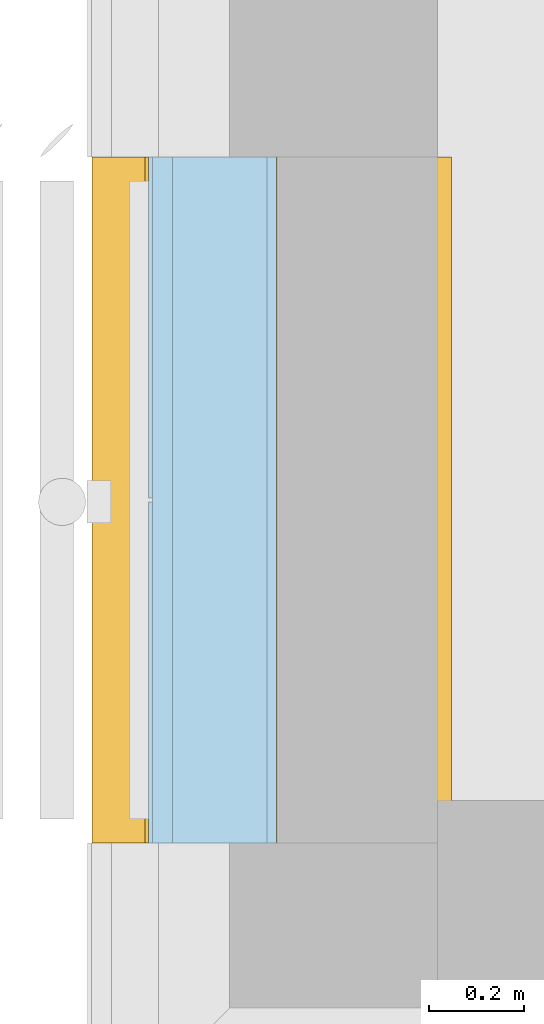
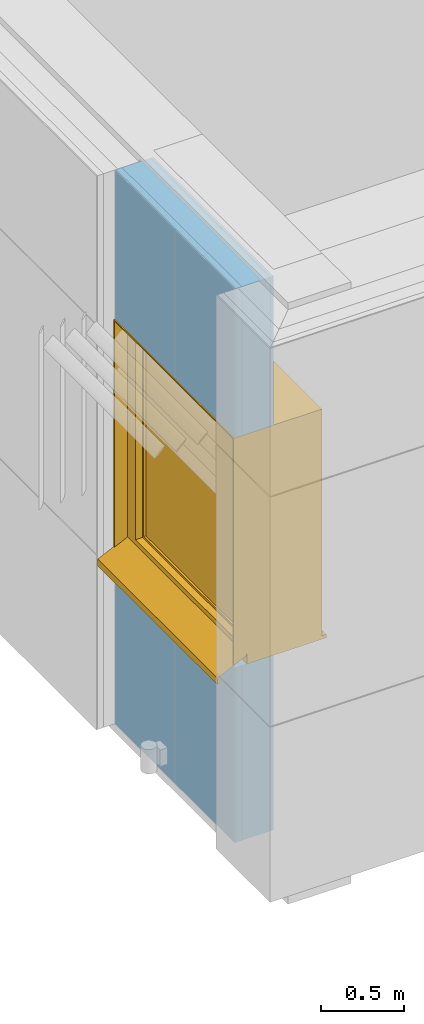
# One storey, part 117 of 418: 1 window, 2 openings, 1 element without a shape of its own, plus 4 elements that do not belong to this part.
"""IFC2X3 building model written with IfcOpenShell, lengths in millimetres."""

from ifc_helpers import new_model, entity, si_unit, converted_unit, derived_unit, money_unit, direction, frame, origin_with_axes, origin_2d_with_axis, place, context, subcontext, project, spatial, polyline, rectangle, outline, extrude, open_shell, faceted_brep, surface_model, material, type_object, element, fill, aggregate, save


model = new_model("IFC2X3")

# Units and contexts
model_context = context("Model", 3, precision=0.01, world=origin_with_axes(), true_north=direction((0.0, 1.0)))
body_context = subcontext(model_context, "Body", "Model", "MODEL_VIEW")
ifc_project = project(units=[si_unit("LENGTHUNIT", "METRE", prefix="MILLI"), si_unit("AREAUNIT", "SQUARE_METRE"), si_unit("VOLUMEUNIT", "CUBIC_METRE"), converted_unit("PLANEANGLEUNIT", "DEGREE", entity("IfcPlaneAngleMeasure", 0.0174532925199), si_unit("PLANEANGLEUNIT", "RADIAN"), dimensions=[0, 0, 0, 0, 0, 0, 0]), si_unit("SOLIDANGLEUNIT", "STERADIAN"), money_unit("EUR"), converted_unit("TIMEUNIT", "Year", entity("IfcTimeMeasure", 31556926.0), si_unit("TIMEUNIT", "SECOND"), dimensions=[0, 0, 1, 0, 0, 0, 0]), si_unit("MASSUNIT", "GRAM", prefix="KILO"), si_unit("THERMODYNAMICTEMPERATUREUNIT", "DEGREE_CELSIUS"), si_unit("LUMINOUSINTENSITYUNIT", "LUMEN"), si_unit("ENERGYUNIT", "JOULE", prefix="MEGA"), derived_unit("THERMALCONDUCTANCEUNIT", [(si_unit("POWERUNIT", "WATT"), 1), (si_unit("LENGTHUNIT", "METRE"), -1), (si_unit("THERMODYNAMICTEMPERATUREUNIT", "KELVIN"), -1)]), derived_unit("SPECIFICHEATCAPACITYUNIT", [(si_unit("ENERGYUNIT", "JOULE"), 1), (si_unit("MASSUNIT", "GRAM", prefix="KILO"), -1), (si_unit("THERMODYNAMICTEMPERATUREUNIT", "KELVIN"), -1)]), derived_unit("MASSDENSITYUNIT", [(si_unit("MASSUNIT", "GRAM", prefix="KILO"), 1), (si_unit("VOLUMEUNIT", "CUBIC_METRE"), -1)])], contexts=[model_context])

# Site, building, storey
site_placement = place(None, origin_with_axes())
site = spatial("IfcSite", under=ifc_project, at=site_placement, Name="Paldiski mnt 245/1, Tallinn, Harjumaa", CompositionType="COMPLEX")
building_placement = place(site_placement, origin_with_axes())
building = spatial("IfcBuilding", under=site, at=building_placement, Name="RKAS Hoone üldnimetus (kasutust iseloomustav) -> IFC Project Manager -> SOLIBRI", CompositionType="ELEMENT")
storey_placement = place(building_placement, origin_with_axes())
storey = spatial("IfcBuildingStorey", under=building, at=storey_placement, Name="Esimene korrus", CompositionType="ELEMENT", Elevation=0.0)

# Window
window_style = type_object("IfcWindowStyle", Name="Window 23", ConstructionType="NOTDEFINED", OperationType="SINGLE_PANEL", ParameterTakesPrecedence=False, Sizeable=False)
wall_placement = place(storey_placement, frame((-59610.9999232, 7590.01138104, 0.0), z_axis=(0.0, 0.0, 1.0), x_axis=(0.0, -1.0, 0.0)))
opening_1_placement = place(wall_placement, frame((725.0, 0.0, 1290.0), z_axis=(0.0, 0.0, 1.0), x_axis=(1.0, 0.0, 0.0)))
window_placement = place(opening_1_placement, frame((-725.0, 0.0, 0.0), z_axis=(0.0, 0.0, 1.0), x_axis=(1.0, 0.0, 0.0)))
window = element("IfcWindow", 1, at=window_placement, inside=storey, type_object=window_style, Name="A-06", ObjectType="WINDOW", OverallHeight=1700.0, OverallWidth=1450.0, context=body_context, shape_type="SurfaceModel", body=[
    surface_model("IfcShellBasedSurfaceModel", [(1450.0, -186.0, 75.0), (0.0, -186.0, 75.0), (0.0, -186.0, 65.0), (1450.0, -186.0, 65.0), (0.0, -390.0, -31.4705882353), (1450.0, -390.0, -31.4705882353), (0.0, -390.0, -81.4705882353), (1450.0, -390.0, -81.4705882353), (0.0, -370.0, -61.4705882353), (1450.0, -370.0, -61.4705882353)], [open_shell([[[0, 1, 2, 3]], [[3, 2, 4, 5]], [[5, 4, 6, 7]], [[7, 6, 8, 9]]])]),
    faceted_brep([(0.0, -100.0, 0.0), (0.0, -100.0, 25.0), (0.0, 0.0, 25.0), (0.0, 0.0, 0.0), (1450.0, -100.0, 0.0), (1450.0, -100.0, 25.0), (1450.0, 0.0, 25.0), (1450.0, 370.0, 25.0), (0.0, 370.0, 25.0), (0.0, 370.0, 0.0), (1450.0, 370.0, 0.0), (1450.0, 0.0, 0.0)], [[[0, 1, 2, 3]], [[4, 5, 1, 0]], [[1, 5, 6, 7, 8, 2]], [[3, 2, 8, 9]], [[0, 3, 9, 10, 11, 4]], [[11, 6, 5, 4]], [[10, 7, 6, 11]], [[9, 8, 7, 10]]]),
    faceted_brep([(1450.0, -100.0, 25.0), (1450.0, -100.0, 1700.0), (1424.0, -100.0, 1674.0), (1424.0, -100.0, 25.0), (1450.0, 0.0, 25.0), (1450.0, 0.0, 1700.0), (1424.0, 0.0, 1674.0), (1424.0, 0.0, 25.0)], [[[0, 1, 2, 3]], [[4, 5, 1, 0]], [[6, 2, 1, 5]], [[3, 2, 6, 7]], [[7, 4, 0, 3]], [[7, 6, 5, 4]]]),
    faceted_brep([(26.0, -100.0, 25.0), (26.0, -100.0, 1674.0), (0.0, -100.0, 1700.0), (0.0, -100.0, 25.0), (26.0, 0.0, 25.0), (26.0, 0.0, 1674.0), (0.0, 0.0, 1700.0), (0.0, 0.0, 25.0)], [[[0, 1, 2, 3]], [[4, 5, 1, 0]], [[6, 2, 1, 5]], [[3, 2, 6, 7]], [[7, 4, 0, 3]], [[7, 6, 5, 4]]]),
    faceted_brep([(1424.0, -100.0, 1674.0), (26.0, -100.0, 1674.0), (26.0, 0.0, 1674.0), (1424.0, 0.0, 1674.0), (1450.0, -100.0, 1700.0), (0.0, -100.0, 1700.0), (0.0, 0.0, 1700.0), (1450.0, 0.0, 1700.0)], [[[0, 1, 2, 3]], [[0, 4, 5, 1]], [[1, 5, 6, 2]], [[3, 2, 6, 7]], [[4, 0, 3, 7]], [[5, 4, 7, 6]]]),
    faceted_brep([(1450.0, 0.0, 25.0), (1450.0, 0.0, 1700.0), (1424.0, 0.0, 1674.0), (1424.0, 0.0, 25.0), (1450.0, 340.0, 25.0), (1450.0, 340.0, 1700.0), (1424.0, 340.0, 1674.0), (1424.0, 340.0, 25.0)], [[[0, 1, 2, 3]], [[4, 5, 1, 0]], [[5, 6, 2, 1]], [[3, 2, 6, 7]], [[7, 4, 0, 3]], [[7, 6, 5, 4]]]),
    faceted_brep([(26.0, 0.0, 25.0), (26.0, 0.0, 1674.0), (0.0, 0.0, 1700.0), (0.0, 0.0, 25.0), (26.0, 340.0, 25.0), (26.0, 340.0, 1674.0), (0.0, 340.0, 1700.0), (0.0, 340.0, 25.0)], [[[0, 1, 2, 3]], [[4, 5, 1, 0]], [[5, 6, 2, 1]], [[3, 2, 6, 7]], [[7, 4, 0, 3]], [[7, 6, 5, 4]]]),
    faceted_brep([(1450.0, 340.0, 1700.0), (1450.0, 0.0, 1700.0), (1424.0, 0.0, 1674.0), (1424.0, 340.0, 1674.0), (0.0, 340.0, 1700.0), (0.0, 0.0, 1700.0), (26.0, 0.0, 1674.0), (26.0, 340.0, 1674.0)], [[[0, 1, 2, 3]], [[4, 5, 1, 0]], [[1, 5, 6, 2]], [[3, 2, 6, 7]], [[0, 3, 7, 4]], [[7, 6, 5, 4]]]),
    faceted_brep([(1442.0, -270.0, 25.276816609), (1442.0, -270.0, 1692.0), (1442.0, -185.0, 1692.0), (1442.0, -185.0, 75.0), (1442.0, -186.0, 75.0), (1442.0, -186.0, 65.0), (1450.0, -270.0, 25.276816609), (1450.0, -270.0, 1700.0), (1450.0, -185.0, 1700.0), (1450.0, -185.0, 75.0), (1450.0, -186.0, 75.0), (1450.0, -186.0, 65.0)], [[[0, 1, 2, 3, 4, 5]], [[6, 7, 1, 0]], [[8, 2, 1, 7]], [[3, 2, 8, 9]], [[3, 9, 10, 4]], [[4, 10, 11, 5]], [[5, 11, 6, 0]], [[11, 10, 9, 8, 7, 6]]]),
    faceted_brep([(0.0, -270.0, 25.276816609), (0.0, -270.0, 1700.0), (0.0, -185.0, 1700.0), (0.0, -185.0, 75.0), (0.0, -186.0, 75.0), (0.0, -186.0, 65.0), (8.0, -270.0, 25.276816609), (8.0, -270.0, 1692.0), (8.0, -185.0, 1692.0), (8.0, -185.0, 75.0), (8.0, -186.0, 75.0), (8.0, -186.0, 65.0)], [[[0, 1, 2, 3, 4, 5]], [[6, 7, 1, 0]], [[8, 2, 1, 7]], [[3, 2, 8, 9]], [[3, 9, 10, 4]], [[4, 10, 11, 5]], [[5, 11, 6, 0]], [[11, 10, 9, 8, 7, 6]]]),
    faceted_brep([(1450.0, -185.0, 1700.0), (1450.0, -270.0, 1700.0), (1442.0, -270.0, 1692.0), (1442.0, -185.0, 1692.0), (0.0, -185.0, 1700.0), (0.0, -270.0, 1700.0), (8.0, -270.0, 1692.0), (8.0, -185.0, 1692.0)], [[[0, 1, 2, 3]], [[4, 5, 1, 0]], [[1, 5, 6, 2]], [[3, 2, 6, 7]], [[0, 3, 7, 4]], [[7, 6, 5, 4]]]),
    faceted_brep([(1442.0, -278.0, 21.493656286), (1442.0, -278.0, 1692.0), (1442.0, -270.0, 1692.0), (1442.0, -270.0, 25.276816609), (1450.0, -278.0, 21.493656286), (1450.0, -278.0, 1700.0), (1450.0, -270.0, 1700.0), (1450.0, -270.0, 25.276816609)], [[[0, 1, 2, 3]], [[4, 5, 1, 0]], [[2, 1, 5, 6]], [[3, 2, 6, 7]], [[7, 4, 0, 3]], [[7, 6, 5, 4]]]),
    faceted_brep([(0.0, -278.0, 21.493656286), (0.0, -278.0, 1700.0), (0.0, -270.0, 1700.0), (0.0, -270.0, 25.276816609), (8.0, -278.0, 21.493656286), (8.0, -278.0, 1692.0), (8.0, -270.0, 1692.0), (8.0, -270.0, 25.276816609)], [[[0, 1, 2, 3]], [[4, 5, 1, 0]], [[2, 1, 5, 6]], [[3, 2, 6, 7]], [[7, 4, 0, 3]], [[7, 6, 5, 4]]]),
    faceted_brep([(1450.0, -278.0, 1700.0), (1442.0, -278.0, 1692.0), (1442.0, -270.0, 1692.0), (1450.0, -270.0, 1700.0), (0.0, -278.0, 1700.0), (8.0, -278.0, 1692.0), (8.0, -270.0, 1692.0), (0.0, -270.0, 1700.0)], [[[0, 1, 2, 3]], [[0, 4, 5, 1]], [[1, 5, 6, 2]], [[3, 2, 6, 7]], [[4, 0, 3, 7]], [[5, 4, 7, 6]]]),
    faceted_brep([(1350.0, -135.0, 1600.0), (1350.0, -185.0, 1600.0), (1450.0, -185.0, 1600.0), (1450.0, -135.0, 1600.0), (1350.0, -135.0, 100.0), (1350.0, -185.0, 100.0), (1450.0, -185.0, 100.0), (1450.0, -135.0, 100.0)], [[[0, 1, 2, 3]], [[4, 5, 1, 0]], [[2, 1, 5, 6]], [[3, 2, 6, 7]], [[4, 0, 3, 7]], [[7, 6, 5, 4]]]),
    faceted_brep([(100.0, -135.0, 100.0), (100.0, -185.0, 100.0), (0.0, -185.0, 100.0), (0.0, -135.0, 100.0), (100.0, -135.0, 1600.0), (100.0, -185.0, 1600.0), (0.0, -185.0, 1600.0), (0.0, -135.0, 1600.0)], [[[0, 1, 2, 3]], [[4, 5, 1, 0]], [[2, 1, 5, 6]], [[3, 2, 6, 7]], [[4, 0, 3, 7]], [[7, 6, 5, 4]]]),
    faceted_brep([(1350.0, -135.0, 100.0), (1350.0, -185.0, 100.0), (1450.0, -185.0, 100.0), (1450.0, -135.0, 100.0), (100.0, -135.0, 100.0), (100.0, -185.0, 100.0), (0.0, -185.0, 100.0), (0.0, -185.0, 0.0), (1450.0, -185.0, 0.0), (1450.0, -135.0, 0.0), (0.0, -135.0, 0.0), (0.0, -135.0, 100.0)], [[[0, 1, 2, 3]], [[4, 5, 1, 0]], [[2, 1, 5, 6, 7, 8]], [[3, 2, 8, 9]], [[4, 0, 3, 9, 10, 11]], [[11, 6, 5, 4]], [[10, 7, 6, 11]], [[9, 8, 7, 10]]]),
    faceted_brep([(100.0, -135.0, 1600.0), (100.0, -185.0, 1600.0), (0.0, -185.0, 1600.0), (0.0, -135.0, 1600.0), (1350.0, -135.0, 1600.0), (1350.0, -185.0, 1600.0), (1450.0, -185.0, 1600.0), (1450.0, -185.0, 1700.0), (0.0, -185.0, 1700.0), (0.0, -135.0, 1700.0), (1450.0, -135.0, 1700.0), (1450.0, -135.0, 1600.0)], [[[0, 1, 2, 3]], [[4, 5, 1, 0]], [[2, 1, 5, 6, 7, 8]], [[3, 2, 8, 9]], [[4, 0, 3, 9, 10, 11]], [[11, 6, 5, 4]], [[10, 7, 6, 11]], [[9, 8, 7, 10]]]),
    faceted_brep([(1385.0, -100.0, 100.0), (1385.0, -100.0, 1600.0), (1450.0, -100.0, 1600.0), (1450.0, -100.0, 100.0), (1385.0, -135.0, 1600.0), (1385.0, -135.0, 100.0), (1450.0, -135.0, 1600.0), (1450.0, -135.0, 100.0)], [[[0, 1, 2, 3]], [[4, 1, 0, 5]], [[1, 4, 6, 2]], [[2, 6, 7, 3]], [[5, 0, 3, 7]], [[4, 5, 7, 6]]]),
    faceted_brep([(65.0, -135.0, 1600.0), (65.0, -100.0, 1600.0), (0.0, -100.0, 1600.0), (0.0, -135.0, 1600.0), (65.0, -100.0, 100.0), (65.0, -135.0, 100.0), (0.0, -100.0, 100.0), (0.0, -135.0, 100.0)], [[[0, 1, 2, 3]], [[4, 1, 0, 5]], [[1, 4, 6, 2]], [[6, 7, 3, 2]], [[5, 0, 3, 7]], [[4, 5, 7, 6]]]),
    faceted_brep([(65.0, -135.0, 100.0), (65.0, -100.0, 100.0), (0.0, -100.0, 100.0), (0.0, -135.0, 100.0), (65.0, -100.0, 65.0), (65.0, -135.0, 65.0), (1385.0, -100.0, 65.0), (1385.0, -100.0, 100.0), (1450.0, -100.0, 100.0), (1450.0, -100.0, 0.0), (0.0, -100.0, 0.0), (0.0, -135.0, 0.0), (1450.0, -135.0, 0.0), (1450.0, -135.0, 100.0), (1385.0, -135.0, 100.0), (1385.0, -135.0, 65.0)], [[[0, 1, 2, 3]], [[4, 1, 0, 5]], [[6, 7, 8, 9, 10, 2, 1, 4]], [[10, 11, 3, 2]], [[5, 0, 3, 11, 12, 13, 14, 15]], [[6, 4, 5, 15]], [[14, 7, 6, 15]], [[7, 14, 13, 8]], [[8, 13, 12, 9]], [[9, 12, 11, 10]]]),
    faceted_brep([(1385.0, -100.0, 1600.0), (1385.0, -100.0, 1635.0), (65.0, -100.0, 1635.0), (65.0, -100.0, 1600.0), (0.0, -100.0, 1600.0), (0.0, -100.0, 1700.0), (1450.0, -100.0, 1700.0), (1450.0, -100.0, 1600.0), (1385.0, -135.0, 1600.0), (1385.0, -135.0, 1635.0), (65.0, -135.0, 1635.0), (65.0, -135.0, 1600.0), (0.0, -135.0, 1600.0), (0.0, -135.0, 1700.0), (1450.0, -135.0, 1700.0), (1450.0, -135.0, 1600.0)], [[[0, 1, 2, 3, 4, 5, 6, 7]], [[1, 0, 8, 9]], [[2, 1, 9, 10]], [[3, 2, 10, 11]], [[3, 11, 12, 4]], [[4, 12, 13, 5]], [[5, 13, 14, 6]], [[6, 14, 15, 7]], [[8, 0, 7, 15]], [[9, 8, 15, 14, 13, 12, 11, 10]]]),
    faceted_brep([(74.0, -85.0, 877.0), (75.3397459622, -85.0, 882.0), (75.3397459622, -73.0, 882.0), (74.0, -73.0, 877.0), (74.0, -85.0, 823.0), (75.3397459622, -85.0, 818.0), (79.0, -85.0, 814.339745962), (84.0, -85.0, 813.0), (96.0, -85.0, 813.0), (101.0, -85.0, 814.339745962), (104.660254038, -85.0, 818.0), (106.0, -85.0, 823.0), (106.0, -85.0, 877.0), (104.660254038, -85.0, 882.0), (101.0, -85.0, 885.660254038), (96.0, -85.0, 887.0), (84.0, -85.0, 887.0), (79.0, -85.0, 885.660254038), (79.0, -73.0, 885.660254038), (84.0, -73.0, 887.0), (96.0, -73.0, 887.0), (101.0, -73.0, 885.660254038), (104.660254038, -73.0, 882.0), (106.0, -73.0, 877.0), (106.0, -73.0, 823.0), (104.660254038, -73.0, 818.0), (101.0, -73.0, 814.339745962), (96.0, -73.0, 813.0), (84.0, -73.0, 813.0), (79.0, -73.0, 814.339745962), (75.3397459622, -73.0, 818.0), (74.0, -73.0, 823.0)], [[[0, 1, 2, 3]], [[0, 4, 5, 6, 7, 8, 9, 10, 11, 12, 13, 14, 15, 16, 17, 1]], [[1, 17, 18, 2]], [[3, 2, 18, 19, 20, 21, 22, 23, 24, 25, 26, 27, 28, 29, 30, 31]], [[4, 0, 3, 31]], [[5, 4, 31, 30]], [[6, 5, 30, 29]], [[7, 6, 29, 28]], [[8, 7, 28, 27]], [[9, 8, 27, 26]], [[10, 9, 26, 25]], [[11, 10, 25, 24]], [[12, 11, 24, 23]], [[13, 12, 23, 22]], [[14, 13, 22, 21]], [[15, 14, 21, 20]], [[16, 15, 20, 19]], [[17, 16, 19, 18]]]),
    faceted_brep([(90.0, -73.0, 863.5), (96.75, -73.0, 861.691342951), (96.75, -49.0, 861.691342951), (90.0, -49.0, 863.5), (83.25, -73.0, 861.691342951), (78.3086570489, -73.0, 856.75), (76.5, -73.0, 850.0), (78.3086570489, -73.0, 843.25), (83.25, -73.0, 838.308657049), (90.0, -73.0, 836.5), (96.75, -73.0, 838.308657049), (101.691342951, -73.0, 843.25), (103.5, -73.0, 850.0), (101.691342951, -73.0, 856.75), (101.691342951, -49.0, 856.75), (103.5, -49.0, 850.0), (101.691342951, -49.0, 843.25), (96.75, -49.0, 838.308657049), (90.0, -49.0, 836.5), (83.25, -49.0, 838.308657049), (78.3086570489, -49.0, 843.25), (76.5, -49.0, 850.0), (78.3086570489, -49.0, 856.75), (83.25, -49.0, 861.691342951)], [[[0, 1, 2, 3]], [[0, 4, 5, 6, 7, 8, 9, 10, 11, 12, 13, 1]], [[1, 13, 14, 2]], [[3, 2, 14, 15, 16, 17, 18, 19, 20, 21, 22, 23]], [[4, 0, 3, 23]], [[5, 4, 23, 22]], [[6, 5, 22, 21]], [[7, 6, 21, 20]], [[8, 7, 20, 19]], [[9, 8, 19, 18]], [[10, 9, 18, 17]], [[11, 10, 17, 16]], [[12, 11, 16, 15]], [[13, 12, 15, 14]]]),
    faceted_brep([(78.5, -49.0, 743.0), (90.0, -49.0, 740.0), (101.5, -49.0, 743.0), (103.5, -49.0, 746.0), (103.5, -49.0, 850.0), (101.691342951, -49.0, 856.75), (96.75, -49.0, 861.691342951), (90.0, -49.0, 863.5), (83.25, -49.0, 861.691342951), (78.3086570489, -49.0, 856.75), (76.5, -49.0, 850.0), (76.5, -49.0, 746.0), (78.4999999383, -41.0, 743.000000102), (89.9999999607, -41.0, 739.99999961), (101.499999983, -41.0, 743.000000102), (103.500000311, -41.0, 745.999999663), (103.500000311, -41.0, 849.999999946), (101.691343, -41.0, 856.749999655), (96.7499996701, -41.0, 861.691342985), (89.9999999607, -41.0, 863.500000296), (83.2500002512, -41.0, 861.691342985), (78.3086569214, -41.0, 856.749999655), (76.4999996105, -41.0, 849.999999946), (76.4999996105, -41.0, 745.999999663), (80.3625374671, -38.0000004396, 745.614519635), (89.9999999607, -38.0000004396, 743.100398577), (99.6374624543, -38.0000004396, 745.614519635), (100.50000075, -38.0000004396, 746.908326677), (100.50000075, -38.0000004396, 849.605042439), (99.001617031, -38.0000004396, 855.197085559), (95.1970855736, -38.0000004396, 859.001617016), (89.9999999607, -38.0000004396, 860.394172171), (84.8029143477, -38.0000004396, 859.001617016), (80.9983828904, -38.0000004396, 855.197085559), (79.4999991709, -38.0000004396, 849.605042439), (79.4999991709, -38.0000004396, 746.908326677)], [[[0, 1, 2, 3, 4, 5, 6, 7, 8, 9, 10, 11]], [[1, 0, 12, 13]], [[2, 1, 13, 14]], [[3, 2, 14, 15]], [[4, 3, 15, 16]], [[5, 4, 16, 17]], [[6, 5, 17, 18]], [[7, 6, 18, 19]], [[8, 7, 19, 20]], [[9, 8, 20, 21]], [[10, 9, 21, 22]], [[11, 10, 22, 23]], [[0, 11, 23, 12]], [[13, 12, 24, 25]], [[14, 13, 25, 26]], [[15, 14, 26, 27]], [[16, 15, 27, 28]], [[17, 16, 28, 29]], [[18, 17, 29, 30]], [[19, 18, 30, 31]], [[20, 19, 31, 32]], [[21, 20, 32, 33]], [[22, 21, 33, 34]], [[23, 22, 34, 35]], [[12, 23, 35, 24]], [[26, 25, 24, 35, 34, 33, 32, 31, 30, 29, 28, 27]]]),
    faceted_brep([(1335.0, -135.0, 1585.0), (1385.0, -135.0, 1585.0), (1385.0, -120.0, 1585.0), (1335.0, -120.0, 1585.0), (1335.0, -135.0, 115.0), (1385.0, -135.0, 115.0), (1385.0, -120.0, 115.0), (1335.0, -120.0, 115.0)], [[[0, 1, 2, 3]], [[0, 4, 5, 1]], [[1, 5, 6, 2]], [[3, 2, 6, 7]], [[4, 0, 3, 7]], [[5, 4, 7, 6]]]),
    faceted_brep([(115.0, -135.0, 115.0), (65.0, -135.0, 115.0), (65.0, -120.0, 115.0), (115.0, -120.0, 115.0), (115.0, -135.0, 1585.0), (65.0, -135.0, 1585.0), (65.0, -120.0, 1585.0), (115.0, -120.0, 1585.0)], [[[0, 1, 2, 3]], [[0, 4, 5, 1]], [[1, 5, 6, 2]], [[3, 2, 6, 7]], [[4, 0, 3, 7]], [[5, 4, 7, 6]]]),
    faceted_brep([(65.0, -135.0, 65.0), (65.0, -135.0, 115.0), (65.0, -120.0, 115.0), (65.0, -120.0, 65.0), (1385.0, -135.0, 65.0), (1385.0, -135.0, 115.0), (1335.0, -135.0, 115.0), (115.0, -135.0, 115.0), (115.0, -120.0, 115.0), (1335.0, -120.0, 115.0), (1385.0, -120.0, 115.0), (1385.0, -120.0, 65.0)], [[[0, 1, 2, 3]], [[0, 4, 5, 6, 7, 1]], [[1, 7, 8, 2]], [[3, 2, 8, 9, 10, 11]], [[4, 0, 3, 11]], [[5, 4, 11, 10]], [[6, 5, 10, 9]], [[7, 6, 9, 8]]]),
    faceted_brep([(1385.0, -135.0, 1635.0), (1385.0, -135.0, 1585.0), (1385.0, -120.0, 1585.0), (1385.0, -120.0, 1635.0), (65.0, -135.0, 1635.0), (65.0, -135.0, 1585.0), (115.0, -135.0, 1585.0), (1335.0, -135.0, 1585.0), (1335.0, -120.0, 1585.0), (115.0, -120.0, 1585.0), (65.0, -120.0, 1585.0), (65.0, -120.0, 1635.0)], [[[0, 1, 2, 3]], [[0, 4, 5, 6, 7, 1]], [[1, 7, 8, 2]], [[3, 2, 8, 9, 10, 11]], [[4, 0, 3, 11]], [[5, 4, 11, 10]], [[6, 5, 10, 9]], [[7, 6, 9, 8]]]),
    faceted_brep([(1335.0, -120.0, 1585.0), (1385.0, -120.0, 1585.0), (1385.0, -85.0, 1585.0), (1335.0, -85.0, 1585.0), (1335.0, -120.0, 115.0), (1385.0, -120.0, 115.0), (1385.0, -85.0, 115.0), (1335.0, -85.0, 115.0)], [[[0, 1, 2, 3]], [[0, 4, 5, 1]], [[1, 5, 6, 2]], [[3, 2, 6, 7]], [[4, 0, 3, 7]], [[5, 4, 7, 6]]]),
    faceted_brep([(115.0, -120.0, 115.0), (65.0, -120.0, 115.0), (65.0, -85.0, 115.0), (115.0, -85.0, 115.0), (115.0, -120.0, 1585.0), (65.0, -120.0, 1585.0), (65.0, -85.0, 1585.0), (115.0, -85.0, 1585.0)], [[[0, 1, 2, 3]], [[0, 4, 5, 1]], [[1, 5, 6, 2]], [[3, 2, 6, 7]], [[4, 0, 3, 7]], [[5, 4, 7, 6]]]),
    faceted_brep([(65.0, -120.0, 65.0), (65.0, -120.0, 115.0), (65.0, -85.0, 115.0), (65.0, -85.0, 65.0), (1385.0, -120.0, 65.0), (1385.0, -120.0, 115.0), (1335.0, -120.0, 115.0), (115.0, -120.0, 115.0), (115.0, -85.0, 115.0), (1335.0, -85.0, 115.0), (1385.0, -85.0, 115.0), (1385.0, -85.0, 65.0)], [[[0, 1, 2, 3]], [[0, 4, 5, 6, 7, 1]], [[1, 7, 8, 2]], [[3, 2, 8, 9, 10, 11]], [[4, 0, 3, 11]], [[5, 4, 11, 10]], [[6, 5, 10, 9]], [[7, 6, 9, 8]]]),
    faceted_brep([(1385.0, -120.0, 1635.0), (1385.0, -120.0, 1585.0), (1385.0, -85.0, 1585.0), (1385.0, -85.0, 1635.0), (65.0, -120.0, 1635.0), (65.0, -120.0, 1585.0), (115.0, -120.0, 1585.0), (1335.0, -120.0, 1585.0), (1335.0, -85.0, 1585.0), (115.0, -85.0, 1585.0), (65.0, -85.0, 1585.0), (65.0, -85.0, 1635.0)], [[[0, 1, 2, 3]], [[0, 4, 5, 6, 7, 1]], [[1, 7, 8, 2]], [[3, 2, 8, 9, 10, 11]], [[4, 0, 3, 11]], [[5, 4, 11, 10]], [[6, 5, 10, 9]], [[7, 6, 9, 8]]]),
    surface_model("IfcShellBasedSurfaceModel", [(1335.0, -120.0, 115.0), (1335.0, -120.0, 1585.0), (115.0, -120.0, 1585.0), (115.0, -120.0, 115.0)], [open_shell([[[0, 1, 2, 3]]])]),
    surface_model("IfcShellBasedSurfaceModel", [(1335.0, -100.0, 115.0), (115.0, -100.0, 115.0), (115.0, -100.0, 1585.0), (1335.0, -100.0, 1585.0)], [open_shell([[[0, 1, 2, 3]]])]),
])

# Wall, opening
wall_type = type_object("IfcWallType", Name="VS-05B_uued_kihid 270", PredefinedType="NOTDEFINED")
wall = element("IfcWall", 2, at=wall_placement, inside=storey, type_object=wall_type, Name="VS-05")
opening_1 = element("IfcOpeningElement", 3, at=opening_1_placement, cuts=wall, Name="A-06", context=body_context, shape_type="SweptSolid", body=[
    extrude(rectangle(XDim=1450.0, YDim=1700.0, at=origin_2d_with_axis()), frame((0.0, -185.0, 850.0), z_axis=(0.0, 1.0, 0.0), x_axis=(-1.0, 0.0, 0.0)), (0.0, 0.0, 1.0), 455.0),
    extrude(rectangle(XDim=1450.0, YDim=1700.0, at=origin_2d_with_axis()), frame((0.0, -185.0, 850.0), z_axis=(0.0, -1.0, 0.0), x_axis=(-1.0, 0.0, 0.0)), (0.0, 0.0, 1.0), 355.0),
    extrude(rectangle(XDim=1450.0, YDim=1700.0, at=origin_2d_with_axis()), frame((0.0, 0.0, 850.0), z_axis=(0.0, 1.0, 0.0), x_axis=(-1.0, 0.0, 0.0)), (0.0, 0.0, 1.0), 355.0),
    extrude(rectangle(XDim=1450.0, YDim=1708.0, at=origin_2d_with_axis()), frame((0.0, -270.0, 846.0), z_axis=(0.0, -1.0, 0.0), x_axis=(-1.0, 0.0, 0.0)), (0.0, 0.0, 1.0), 355.0),
])

fill(opening_1, window)

# Opening
opening_2_placement = place(wall_placement, frame((725.0, 0.0, 0.0), z_axis=(0.0, 0.0, 1.0), x_axis=(1.0, 0.0, 0.0)))
element("IfcOpeningElement", 4, at=opening_2_placement, cuts=wall, Name="Cembrit fassaadiplaadi vuuk", context=body_context, shape_type="SweptSolid", body=[
    extrude(outline(polyline([(-4.0, 0.0), (4.0, 0.0), (4.0, 4090.0), (-4.0, 4090.0), (-4.0, 0.0)])), frame((0.0, -262.0, 0.0), z_axis=(0.0, -1.0, 0.0), x_axis=(1.0, 0.0, 0.0)), (0.0, 0.0, 1.0), 278.0),
])

# Building element part
ifc_material_1 = material(Name="Cembrit_C060")
building_element_part_1_placement = place(wall_placement, origin_with_axes())
building_element_part_1 = element("IfcBuildingElementPart", 5, at=building_element_part_1_placement, material=ifc_material_1, Name="Cembrit_C060", context=body_context, shape_type="SweptSolid", body=[
    extrude(outline(polyline([(0.0, -270.0), (1450.0, -270.0), (1450.0, -262.0), (0.0, -262.0), (0.0, -270.0)])), origin_with_axes(), (0.0, 0.0, 1.0), 4090.0),
])

ifc_material_2 = material(Name="VKR-06_Õhkvahe")
building_element_part_2_placement = place(wall_placement, origin_with_axes())
building_element_part_2 = element("IfcBuildingElementPart", 6, at=building_element_part_2_placement, material=ifc_material_2, Name="VKR-06_Õhkvahe", context=body_context, shape_type="SweptSolid", body=[
    extrude(outline(polyline([(0.0, -262.0), (1450.0, -262.0), (1450.0, -220.0), (0.0, -220.0), (0.0, -262.0)])), origin_with_axes(), (0.0, 0.0, 1.0), 4090.0),
])

ifc_material_3 = material(Name="Kingspan Kooltherm")
building_element_part_3_placement = place(wall_placement, origin_with_axes())
building_element_part_3 = element("IfcBuildingElementPart", 7, at=building_element_part_3_placement, material=ifc_material_3, Name="Kingspan Kooltherm", context=body_context, shape_type="SweptSolid", body=[
    extrude(outline(polyline([(0.0, -220.0), (1450.0, -220.0), (1450.0, -20.0), (0.0, -20.0), (0.0, -220.0)])), origin_with_axes(), (0.0, 0.0, 1.0), 4090.0),
])

ifc_material_4 = material(Name="Tasanduskrohv")
building_element_part_4_placement = place(wall_placement, origin_with_axes())
building_element_part_4 = element("IfcBuildingElementPart", 8, at=building_element_part_4_placement, material=ifc_material_4, Name="Tasanduskrohv", context=body_context, shape_type="SweptSolid", body=[
    extrude(outline(polyline([(0.0, -20.0), (1450.0, -20.0), (1450.0, 0.0), (0.0, 0.0), (0.0, -20.0)])), origin_with_axes(), (0.0, 0.0, 1.0), 4090.0),
])

aggregate(wall, [building_element_part_1, building_element_part_2, building_element_part_3, building_element_part_4])

save(model, "model.ifc")
